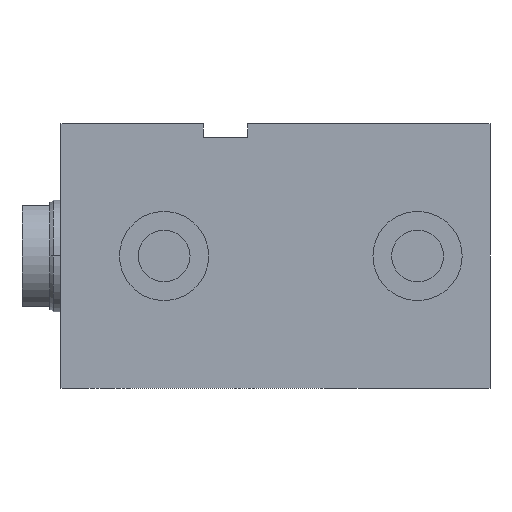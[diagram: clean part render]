
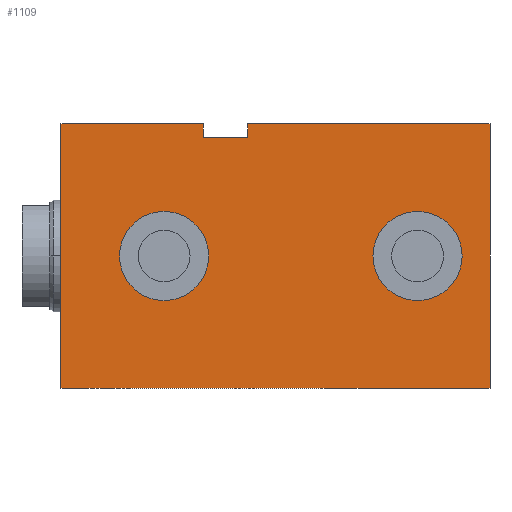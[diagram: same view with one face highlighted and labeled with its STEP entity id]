
A CAD part, left-side view. The second image highlights one B-rep face of the part: STEP entity #1109.
In plain terms, the highlighted planar face has unit normal (-1, 0, 0).
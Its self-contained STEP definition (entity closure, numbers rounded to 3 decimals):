
#7 = AXIS2_PLACEMENT_3D ( 'NONE', #1461, #1463, #1472 ) ;
#73 = VECTOR ( 'NONE', #2539, 1000. ) ;
#98 = ORIENTED_EDGE ( 'NONE', *, *, #663, .F. ) ;
#143 = EDGE_LOOP ( 'NONE', ( #1249, #601 ) ) ;
#156 = ORIENTED_EDGE ( 'NONE', *, *, #2422, .T. ) ;
#201 = VERTEX_POINT ( 'NONE', #961 ) ;
#207 = EDGE_LOOP ( 'NONE', ( #1317, #98 ) ) ;
#223 = ORIENTED_EDGE ( 'NONE', *, *, #2913, .T. ) ;
#232 = LINE ( 'NONE', #2746, #298 ) ;
#236 = CARTESIAN_POINT ( 'NONE',  ( -62.5, 91., 47.5 ) ) ;
#289 = ORIENTED_EDGE ( 'NONE', *, *, #1998, .F. ) ;
#298 = VECTOR ( 'NONE', #2748, 1000. ) ;
#305 = CARTESIAN_POINT ( 'NONE',  ( -62.5, 117., 16. ) ) ;
#352 = DIRECTION ( 'NONE',  ( 0., -1., 0. ) ) ;
#368 = CARTESIAN_POINT ( 'NONE',  ( -62.5, 0., -47.5 ) ) ;
#395 = LINE ( 'NONE', #236, #2880 ) ;
#401 = CARTESIAN_POINT ( 'NONE',  ( -62.5, 26., -16. ) ) ;
#453 = DIRECTION ( 'NONE',  ( 0., -1., 0. ) ) ;
#456 = VECTOR ( 'NONE', #2272, 1000. ) ;
#520 = VERTEX_POINT ( 'NONE', #2415 ) ;
#536 = VECTOR ( 'NONE', #2403, 1000. ) ;
#578 = CARTESIAN_POINT ( 'NONE',  ( -62.5, 154., -47.5 ) ) ;
#601 = ORIENTED_EDGE ( 'NONE', *, *, #2267, .F. ) ;
#652 = LINE ( 'NONE', #2315, #73 ) ;
#659 = CARTESIAN_POINT ( 'NONE',  ( -62.5, 103., 42.5 ) ) ;
#663 = EDGE_CURVE ( 'NONE', #2937, #722, #2925, .T. ) ;
#722 = VERTEX_POINT ( 'NONE', #1493 ) ;
#724 = VECTOR ( 'NONE', #453, 1000. ) ;
#735 = FACE_BOUND ( 'NONE', #143, .T. ) ;
#885 = EDGE_CURVE ( 'NONE', #722, #2937, #1833, .T. ) ;
#905 = ORIENTED_EDGE ( 'NONE', *, *, #1529, .F. ) ;
#909 = CARTESIAN_POINT ( 'NONE',  ( -62.5, 117., -16. ) ) ;
#961 = CARTESIAN_POINT ( 'NONE',  ( -62.5, 87., 42.5 ) ) ;
#983 = AXIS2_PLACEMENT_3D ( 'NONE', #1460, #1594, #1648 ) ;
#1017 = AXIS2_PLACEMENT_3D ( 'NONE', #2273, #2300, #2302 ) ;
#1060 = VERTEX_POINT ( 'NONE', #2093 ) ;
#1093 = CARTESIAN_POINT ( 'NONE',  ( -62.5, 117., 0. ) ) ;
#1097 = LINE ( 'NONE', #2962, #456 ) ;
#1109 = ADVANCED_FACE ( 'NONE', ( #2012, #1448, #735 ), #2247, .F. ) ;
#1128 = EDGE_CURVE ( 'NONE', #3005, #201, #652, .T. ) ;
#1249 = ORIENTED_EDGE ( 'NONE', *, *, #2830, .F. ) ;
#1317 = ORIENTED_EDGE ( 'NONE', *, *, #885, .F. ) ;
#1321 = VERTEX_POINT ( 'NONE', #2696 ) ;
#1327 = EDGE_CURVE ( 'NONE', #2791, #1321, #232, .T. ) ;
#1332 = DIRECTION ( 'NONE',  ( 0., 0., 1. ) ) ;
#1352 = LINE ( 'NONE', #2344, #2001 ) ;
#1392 = ORIENTED_EDGE ( 'NONE', *, *, #2742, .F. ) ;
#1397 = CIRCLE ( 'NONE', #983, 16. ) ;
#1448 = FACE_BOUND ( 'NONE', #207, .T. ) ;
#1460 = CARTESIAN_POINT ( 'NONE',  ( -62.5, 117., 0. ) ) ;
#1461 = CARTESIAN_POINT ( 'NONE',  ( -62.5, 26., 0. ) ) ;
#1463 = DIRECTION ( 'NONE',  ( -1., 0., 0. ) ) ;
#1472 = DIRECTION ( 'NONE',  ( 0., 0., 1. ) ) ;
#1479 = ORIENTED_EDGE ( 'NONE', *, *, #1128, .F. ) ;
#1480 = VERTEX_POINT ( 'NONE', #305 ) ;
#1493 = CARTESIAN_POINT ( 'NONE',  ( -62.5, 26., 16. ) ) ;
#1529 = EDGE_CURVE ( 'NONE', #1060, #1321, #395, .T. ) ;
#1594 = DIRECTION ( 'NONE',  ( -1., 0., 0. ) ) ;
#1616 = VERTEX_POINT ( 'NONE', #909 ) ;
#1648 = DIRECTION ( 'NONE',  ( 0., 0., 1. ) ) ;
#1654 = AXIS2_PLACEMENT_3D ( 'NONE', #1093, #2783, #1332 ) ;
#1657 = CARTESIAN_POINT ( 'NONE',  ( -62.5, 91., -47.5 ) ) ;
#1827 = LINE ( 'NONE', #2305, #536 ) ;
#1833 = CIRCLE ( 'NONE', #2046, 16. ) ;
#1885 = CARTESIAN_POINT ( 'NONE',  ( -62.5, 26., 0. ) ) ;
#1887 = DIRECTION ( 'NONE',  ( -1., 0., 0. ) ) ;
#1897 = DIRECTION ( 'NONE',  ( 0., 0., 1. ) ) ;
#1904 = VECTOR ( 'NONE', #2252, 1000. ) ;
#1926 = EDGE_CURVE ( 'NONE', #520, #2332, #1977, .T. ) ;
#1970 = ORIENTED_EDGE ( 'NONE', *, *, #1327, .T. ) ;
#1977 = LINE ( 'NONE', #2056, #1904 ) ;
#1998 = EDGE_CURVE ( 'NONE', #201, #1060, #1827, .T. ) ;
#2001 = VECTOR ( 'NONE', #2578, 1000. ) ;
#2004 = LINE ( 'NONE', #1657, #724 ) ;
#2012 = FACE_OUTER_BOUND ( 'NONE', #2844, .T. ) ;
#2039 = ORIENTED_EDGE ( 'NONE', *, *, #1926, .F. ) ;
#2046 = AXIS2_PLACEMENT_3D ( 'NONE', #1885, #1887, #1897 ) ;
#2056 = CARTESIAN_POINT ( 'NONE',  ( -62.5, 91., 47.5 ) ) ;
#2093 = CARTESIAN_POINT ( 'NONE',  ( -62.5, 87., 47.5 ) ) ;
#2247 = PLANE ( 'NONE',  #1017 ) ;
#2252 = DIRECTION ( 'NONE',  ( 0., -1., 0. ) ) ;
#2267 = EDGE_CURVE ( 'NONE', #1616, #1480, #1397, .T. ) ;
#2272 = DIRECTION ( 'NONE',  ( 0., 0., 1. ) ) ;
#2273 = CARTESIAN_POINT ( 'NONE',  ( -62.5, 91., -47.5 ) ) ;
#2300 = DIRECTION ( 'NONE',  ( 1., 0., 0. ) ) ;
#2302 = DIRECTION ( 'NONE',  ( 0., 0., -1. ) ) ;
#2305 = CARTESIAN_POINT ( 'NONE',  ( -62.5, 87., 42.5 ) ) ;
#2315 = CARTESIAN_POINT ( 'NONE',  ( -62.5, 103., 42.5 ) ) ;
#2332 = VERTEX_POINT ( 'NONE', #2904 ) ;
#2344 = CARTESIAN_POINT ( 'NONE',  ( -62.5, 103., 42.5 ) ) ;
#2403 = DIRECTION ( 'NONE',  ( 0., 0., 1. ) ) ;
#2415 = CARTESIAN_POINT ( 'NONE',  ( -62.5, 154., 47.5 ) ) ;
#2422 = EDGE_CURVE ( 'NONE', #2767, #2791, #2004, .T. ) ;
#2539 = DIRECTION ( 'NONE',  ( 0., -1., 0. ) ) ;
#2578 = DIRECTION ( 'NONE',  ( 0., 0., 1. ) ) ;
#2696 = CARTESIAN_POINT ( 'NONE',  ( -62.5, 0., 47.5 ) ) ;
#2742 = EDGE_CURVE ( 'NONE', #2767, #520, #1097, .T. ) ;
#2746 = CARTESIAN_POINT ( 'NONE',  ( -62.5, 0., -47.5 ) ) ;
#2748 = DIRECTION ( 'NONE',  ( 0., 0., 1. ) ) ;
#2767 = VERTEX_POINT ( 'NONE', #578 ) ;
#2783 = DIRECTION ( 'NONE',  ( -1., 0., 0. ) ) ;
#2791 = VERTEX_POINT ( 'NONE', #368 ) ;
#2796 = CIRCLE ( 'NONE', #1654, 16. ) ;
#2830 = EDGE_CURVE ( 'NONE', #1480, #1616, #2796, .T. ) ;
#2844 = EDGE_LOOP ( 'NONE', ( #905, #289, #1479, #223, #2039, #1392, #156, #1970 ) ) ;
#2880 = VECTOR ( 'NONE', #352, 1000. ) ;
#2904 = CARTESIAN_POINT ( 'NONE',  ( -62.5, 103., 47.5 ) ) ;
#2913 = EDGE_CURVE ( 'NONE', #3005, #2332, #1352, .T. ) ;
#2925 = CIRCLE ( 'NONE', #7, 16. ) ;
#2937 = VERTEX_POINT ( 'NONE', #401 ) ;
#2962 = CARTESIAN_POINT ( 'NONE',  ( -62.5, 154., -47.5 ) ) ;
#3005 = VERTEX_POINT ( 'NONE', #659 ) ;
